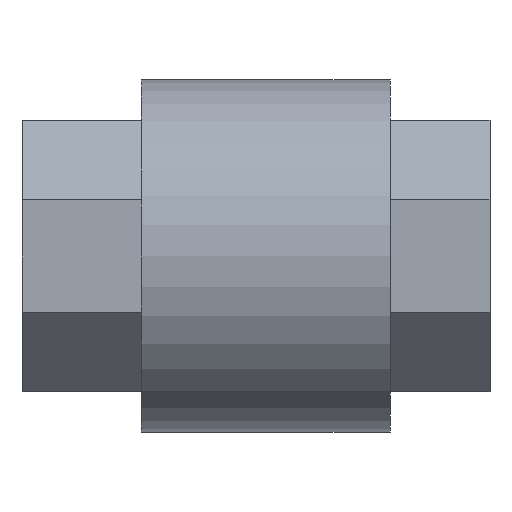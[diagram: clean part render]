
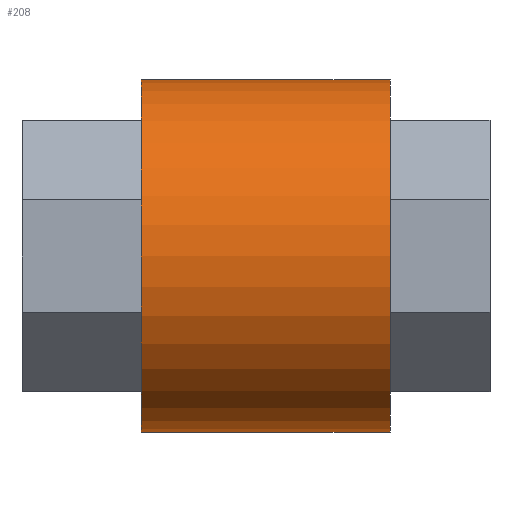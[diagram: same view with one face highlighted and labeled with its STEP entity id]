
A CAD part, front view. The second image highlights one B-rep face of the part: STEP entity #208.
In plain terms, the highlighted cylindrical face has radius 0.767 mm (diameter 1.535 mm), a full revolution.
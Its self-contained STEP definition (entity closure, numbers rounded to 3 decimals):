
#208 = ADVANCED_FACE('',(#209),#222,.T.);
#209 = FACE_BOUND('',#210,.T.);
#210 = EDGE_LOOP('',(#211,#233,#255,#270));
#211 = ORIENTED_EDGE('',*,*,#212,.T.);
#212 = EDGE_CURVE('',#213,#213,#215,.T.);
#213 = VERTEX_POINT('',#214);
#214 = CARTESIAN_POINT('',(1.717,0.768,0.593));
#215 = SURFACE_CURVE('',#216,(#221),.PCURVE_S1.);
#216 = CIRCLE('',#217,0.768);
#217 = AXIS2_PLACEMENT_3D('',#218,#219,#220);
#218 = CARTESIAN_POINT('',(1.717,0.,0.593));
#219 = DIRECTION('',(-1.,0.,0.));
#220 = DIRECTION('',(0.,1.,0.));
#221 = PCURVE('',#222,#227);
#222 = CYLINDRICAL_SURFACE('',#223,0.768);
#223 = AXIS2_PLACEMENT_3D('',#224,#225,#226);
#224 = CARTESIAN_POINT('',(0.632,0.,0.593));
#225 = DIRECTION('',(1.,0.,0.));
#226 = DIRECTION('',(-0.,1.,0.));
#227 = DEFINITIONAL_REPRESENTATION('',(#228),#232);
#228 = LINE('',#229,#230);
#229 = CARTESIAN_POINT('',(6.283,1.085));
#230 = VECTOR('',#231,1.);
#231 = DIRECTION('',(-1.,0.));
#232 = ( GEOMETRIC_REPRESENTATION_CONTEXT(2) 
PARAMETRIC_REPRESENTATION_CONTEXT() REPRESENTATION_CONTEXT('2D SPACE',''
  ) );
#233 = ORIENTED_EDGE('',*,*,#234,.F.);
#234 = EDGE_CURVE('',#235,#213,#237,.T.);
#235 = VERTEX_POINT('',#236);
#236 = CARTESIAN_POINT('',(0.632,0.768,0.593));
#237 = SEAM_CURVE('',#238,(#241,#248),.PCURVE_S1.);
#238 = B_SPLINE_CURVE_WITH_KNOTS('',1,(#239,#240),.UNSPECIFIED.,.F.,.F.,
  (2,2),(0.,1.085),.PIECEWISE_BEZIER_KNOTS.);
#239 = CARTESIAN_POINT('',(0.632,0.768,0.593));
#240 = CARTESIAN_POINT('',(1.717,0.768,0.593));
#241 = PCURVE('',#222,#242);
#242 = DEFINITIONAL_REPRESENTATION('',(#243),#247);
#243 = LINE('',#244,#245);
#244 = CARTESIAN_POINT('',(0.,0.));
#245 = VECTOR('',#246,1.);
#246 = DIRECTION('',(0.,1.));
#247 = ( GEOMETRIC_REPRESENTATION_CONTEXT(2) 
PARAMETRIC_REPRESENTATION_CONTEXT() REPRESENTATION_CONTEXT('2D SPACE',''
  ) );
#248 = PCURVE('',#222,#249);
#249 = DEFINITIONAL_REPRESENTATION('',(#250),#254);
#250 = LINE('',#251,#252);
#251 = CARTESIAN_POINT('',(6.283,0.));
#252 = VECTOR('',#253,1.);
#253 = DIRECTION('',(0.,1.));
#254 = ( GEOMETRIC_REPRESENTATION_CONTEXT(2) 
PARAMETRIC_REPRESENTATION_CONTEXT() REPRESENTATION_CONTEXT('2D SPACE',''
  ) );
#255 = ORIENTED_EDGE('',*,*,#256,.T.);
#256 = EDGE_CURVE('',#235,#235,#257,.T.);
#257 = SURFACE_CURVE('',#258,(#263),.PCURVE_S1.);
#258 = CIRCLE('',#259,0.768);
#259 = AXIS2_PLACEMENT_3D('',#260,#261,#262);
#260 = CARTESIAN_POINT('',(0.632,0.,0.593));
#261 = DIRECTION('',(1.,0.,0.));
#262 = DIRECTION('',(-0.,1.,0.));
#263 = PCURVE('',#222,#264);
#264 = DEFINITIONAL_REPRESENTATION('',(#265),#269);
#265 = LINE('',#266,#267);
#266 = CARTESIAN_POINT('',(0.,0.));
#267 = VECTOR('',#268,1.);
#268 = DIRECTION('',(1.,0.));
#269 = ( GEOMETRIC_REPRESENTATION_CONTEXT(2) 
PARAMETRIC_REPRESENTATION_CONTEXT() REPRESENTATION_CONTEXT('2D SPACE',''
  ) );
#270 = ORIENTED_EDGE('',*,*,#234,.T.);
